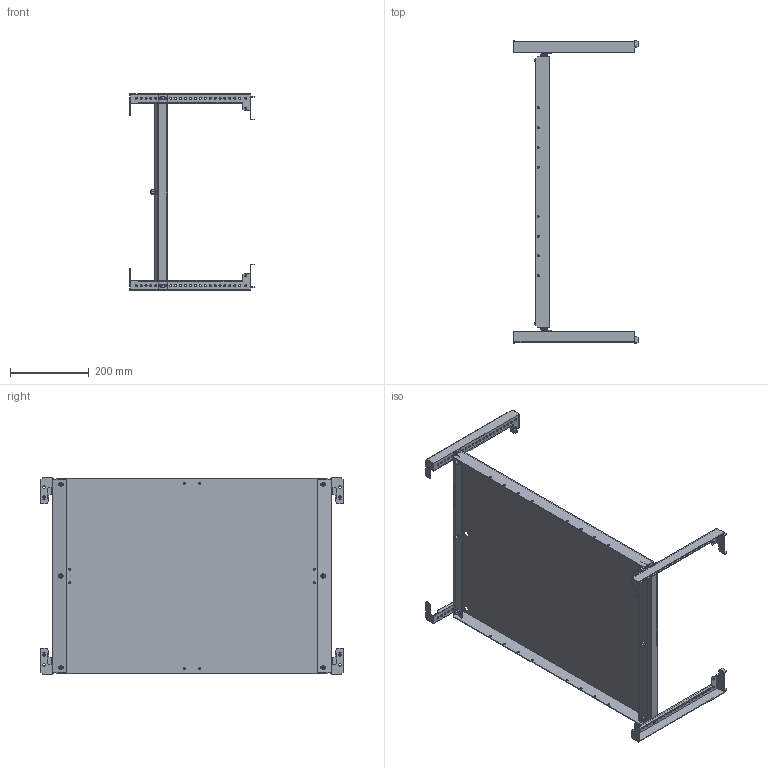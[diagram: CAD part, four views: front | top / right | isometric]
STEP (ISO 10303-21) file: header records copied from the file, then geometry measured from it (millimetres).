
FILE_DESCRIPTION (( 'STEP AP214' ), '1' );
FILE_NAME ('FO-00-MPU-050-080 Ïàíåëü ìîíòàæíàÿ óíèâåðñàëüíàÿ 500?800 ìì.STEP', '2025-07-16T07:08:26', ( '' ), ( '' ), 'SwSTEP 2.0', 'SolidWorks 2023', '' );
FILE_SCHEMA (( 'AUTOMOTIVE_DESIGN' ));
Length unit declared in the file: millimetre
Products named in the file (5): Панель монтажная универсальная 500×800; Траверса горизонтальная; FO-00-MPU-050-080 Панель монтажная универсальная 500×800 мм; Траверса горизонтальнаяD; Винты DIN 912 4xM6x20 500x800
Assembly tree (6 placements, depth 2):
  FO-00-MPU-050-080 Панель монтажная универсальная 500×800 мм
    Панель монтажная универсальная 500×800
    Винты DIN 912 4xM6x20 500x800
    Траверса горизонтальная  x2
    Траверса горизонтальнаяD  x2
Bounding box: 314.53 x 766 x 497 mm (x, y, z)
Volume: 1172085.9 mm3; surface area: 1193765.9 mm2
Topology: 9 solids, 15 shells, 1146 faces, 3064 edges, 2016 vertices
Faces by surface type: cylinder 516, plane 514, cone 76, torus 40
Entity records: 30511 total; most frequent: CARTESIAN_POINT 6615, DIRECTION 5076, ORIENTED_EDGE 4796, EDGE_CURVE 2398, AXIS2_PLACEMENT_3D 1865, VERTEX_POINT 1572, VECTOR 1346, LINE 1346
